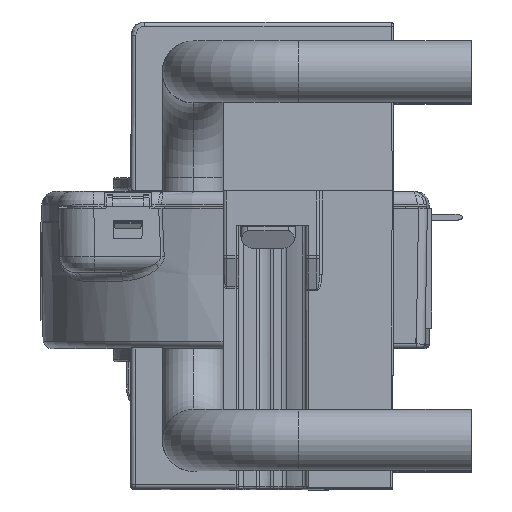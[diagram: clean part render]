
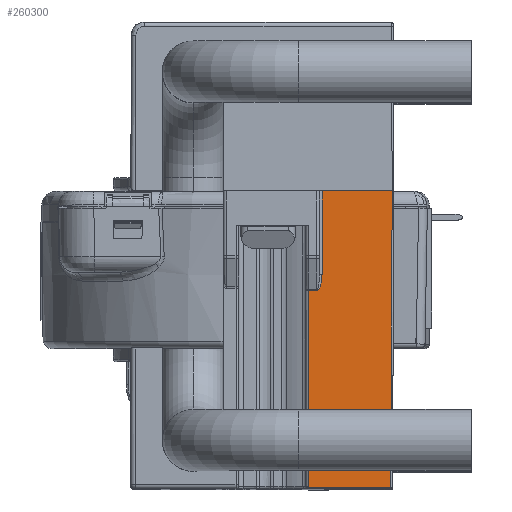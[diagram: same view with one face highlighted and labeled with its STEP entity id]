
A CAD part, top view. The second image highlights one B-rep face of the part: STEP entity #260300.
In plain terms, the highlighted planar face has unit normal (0, -0.005, 1).
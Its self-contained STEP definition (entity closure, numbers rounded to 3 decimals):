
#229080=CARTESIAN_POINT('',(51.191,2.649,
63.125));
#229090=VERTEX_POINT('',#229080);
#235090=CARTESIAN_POINT('',(52.721,36.4,
63.302));
#235100=VERTEX_POINT('',#235090);
#235130=CARTESIAN_POINT('',(52.721,16.502,
63.197));
#235140=DIRECTION('',(0.,-1.,
-0.005));
#235150=VECTOR('',#235140,1.);
#235160=LINE('',#235130,#235150);
#235170=CARTESIAN_POINT('',(52.721,26.844,
63.252));
#235180=VERTEX_POINT('',#235170);
#235190=EDGE_CURVE('',#235100,#235180,#235160,.T.);
#243670=CARTESIAN_POINT('',(60.837,2.649,
63.125));
#243680=DIRECTION('',(1.,0.,0.));
#243690=VECTOR('',#243680,1.);
#243700=LINE('',#243670,#243690);
#243710=CARTESIAN_POINT('',(60.545,2.649,
63.125));
#243720=VERTEX_POINT('',#243710);
#243730=EDGE_CURVE('',#229090,#243720,#243700,.T.);
#259180=CARTESIAN_POINT('',(60.837,36.4,
63.302));
#259190=DIRECTION('',(0.,-0.005,
1.));
#259200=DIRECTION('',(1.,0.,0.));
#259210=AXIS2_PLACEMENT_3D('',#259180,#259190,#259200);
#259220=PLANE('',#259210);
#259230=CARTESIAN_POINT('',(51.191,16.498,
63.197));
#259240=DIRECTION('',(0.,-1.,
-0.005));
#259250=VECTOR('',#259240,1.);
#259260=LINE('',#259230,#259250);
#259270=CARTESIAN_POINT('',(51.191,25.064,
63.242));
#259280=VERTEX_POINT('',#259270);
#259290=EDGE_CURVE('',#259280,#229090,#259260,.T.);
#259300=ORIENTED_EDGE('',*,*,#259290,.T.);
#259310=CARTESIAN_POINT('',(60.837,25.064,
63.242));
#259320=DIRECTION('',(-1.,0.,0.));
#259330=VECTOR('',#259320,1.);
#259340=LINE('',#259310,#259330);
#259350=CARTESIAN_POINT('',(52.121,25.064,
63.242));
#259360=VERTEX_POINT('',#259350);
#259370=EDGE_CURVE('',#259360,#259280,#259340,.T.);
#259380=ORIENTED_EDGE('',*,*,#259370,.T.);
#259390=CARTESIAN_POINT('',(52.121,25.064,
63.242));
#259400=CARTESIAN_POINT('',(52.126,25.064,
63.242));
#259410=CARTESIAN_POINT('',(52.13,25.065,
63.242));
#259420=CARTESIAN_POINT('',(52.138,25.065,
63.242));
#259430=CARTESIAN_POINT('',(52.14,25.065,
63.242));
#259440=CARTESIAN_POINT('',(52.152,25.067,
63.242));
#259450=CARTESIAN_POINT('',(52.162,25.068,
63.242));
#259460=CARTESIAN_POINT('',(52.18,25.073,
63.242));
#259470=CARTESIAN_POINT('',(52.189,25.075,
63.242));
#259480=CARTESIAN_POINT('',(52.206,25.082,
63.242));
#259490=CARTESIAN_POINT('',(52.215,25.086,
63.242));
#259500=CARTESIAN_POINT('',(52.231,25.094,
63.242));
#259510=CARTESIAN_POINT('',(52.239,25.099,
63.242));
#259520=CARTESIAN_POINT('',(52.254,25.108,
63.242));
#259530=CARTESIAN_POINT('',(52.261,25.113,
63.242));
#259540=CARTESIAN_POINT('',(52.276,25.124,
63.243));
#259550=CARTESIAN_POINT('',(52.282,25.13,
63.243));
#259560=CARTESIAN_POINT('',(52.296,25.141,
63.243));
#259570=CARTESIAN_POINT('',(52.303,25.147,
63.243));
#259580=CARTESIAN_POINT('',(52.319,25.164,
63.243));
#259590=CARTESIAN_POINT('',(52.329,25.174,
63.243));
#259600=CARTESIAN_POINT('',(52.348,25.196,
63.243));
#259610=CARTESIAN_POINT('',(52.357,25.207,
63.243));
#259620=CARTESIAN_POINT('',(52.374,25.229,
63.243));
#259630=CARTESIAN_POINT('',(52.382,25.241,
63.243));
#259640=CARTESIAN_POINT('',(52.398,25.265,
63.243));
#259650=CARTESIAN_POINT('',(52.406,25.277,
63.243));
#259660=CARTESIAN_POINT('',(52.423,25.306,
63.244));
#259670=CARTESIAN_POINT('',(52.433,25.323,
63.244));
#259680=CARTESIAN_POINT('',(52.442,25.34,
63.244));
#259690=CARTESIAN_POINT('',(52.453,25.361,
63.244));
#259700=CARTESIAN_POINT('',(52.464,25.383,
63.244));
#259710=CARTESIAN_POINT('',(52.484,25.425,
63.244));
#259720=CARTESIAN_POINT('',(52.493,25.447,
63.244));
#259730=CARTESIAN_POINT('',(52.511,25.491,
63.244));
#259740=CARTESIAN_POINT('',(52.52,25.513,
63.245));
#259750=CARTESIAN_POINT('',(52.536,25.557,
63.245));
#259760=CARTESIAN_POINT('',(52.544,25.579,
63.245));
#259770=CARTESIAN_POINT('',(52.558,25.624,
63.245));
#259780=CARTESIAN_POINT('',(52.565,25.647,
63.245));
#259790=CARTESIAN_POINT('',(52.579,25.692,
63.246));
#259800=CARTESIAN_POINT('',(52.585,25.715,
63.246));
#259810=CARTESIAN_POINT('',(52.597,25.761,
63.246));
#259820=CARTESIAN_POINT('',(52.603,25.783,
63.246));
#259830=CARTESIAN_POINT('',(52.614,25.829,
63.246));
#259840=CARTESIAN_POINT('',(52.62,25.853,
63.246));
#259850=CARTESIAN_POINT('',(52.634,25.916,
63.247));
#259860=CARTESIAN_POINT('',(52.642,25.957,
63.247));
#259870=CARTESIAN_POINT('',(52.656,26.038,
63.247));
#259880=CARTESIAN_POINT('',(52.663,26.079,
63.248));
#259890=CARTESIAN_POINT('',(52.676,26.16,
63.248));
#259900=CARTESIAN_POINT('',(52.681,26.201,
63.248));
#259910=CARTESIAN_POINT('',(52.691,26.283,
63.249));
#259920=CARTESIAN_POINT('',(52.695,26.324,
63.249));
#259930=CARTESIAN_POINT('',(52.703,26.407,
63.249));
#259940=CARTESIAN_POINT('',(52.706,26.448,
63.249));
#259950=CARTESIAN_POINT('',(52.712,26.53,
63.25));
#259960=CARTESIAN_POINT('',(52.714,26.572,
63.25));
#259970=CARTESIAN_POINT('',(52.718,26.654,
63.251));
#259980=CARTESIAN_POINT('',(52.719,26.696,
63.251));
#259990=CARTESIAN_POINT('',(52.721,26.749,
63.251));
#260000=CARTESIAN_POINT('',(52.721,26.761,
63.251));
#260010=CARTESIAN_POINT('',(52.721,26.796,
63.251));
#260020=CARTESIAN_POINT('',(52.721,26.82,
63.251));
#260030=CARTESIAN_POINT('',(52.721,26.844,
63.252));
#260040=B_SPLINE_CURVE_WITH_KNOTS('',3,(#259390,#259400,#259410,#259420,
#259430,#259440,#259450,#259460,#259470,#259480,#259490,#259500,#259510,
#259520,#259530,#259540,#259550,#259560,#259570,#259580,#259590,#259600,
#259610,#259620,#259630,#259640,#259650,#259660,#259670,#259680,#259690,
#259700,#259710,#259720,#259730,#259740,#259750,#259760,#259770,#259780,
#259790,#259800,#259810,#259820,#259830,#259840,#259850,#259860,#259870,
#259880,#259890,#259900,#259910,#259920,#259930,#259940,#259950,#259960,
#259970,#259980,#259990,#260000,#260010,#260020,#260030),.UNSPECIFIED.,
.F.,.F.,(4,2,2,2,2,2,2,2,2,2,2,2,2,2,3,2,2,2,2,2,2,2,2,2,2,2,2,2,2,2,2,4
),(0.,0.01,0.015,0.035,
0.056,0.078,0.1,
0.122,0.145,0.168,0.206,
0.244,0.283,0.323,0.378,
0.444,0.51,0.577,0.644,
0.711,0.779,0.846,0.914,
1.033,1.152,1.271,1.39,
1.51,1.63,1.749,1.783,
1.853),.UNSPECIFIED.);
#260050=EDGE_CURVE('',#259360,#235180,#260040,.T.);
#260060=ORIENTED_EDGE('',*,*,#260050,.F.);
#260070=ORIENTED_EDGE('',*,*,#235190,.T.);
#260080=CARTESIAN_POINT('',(60.837,36.4,
63.302));
#260090=DIRECTION('',(-1.,0.,0.));
#260100=VECTOR('',#260090,1.);
#260110=LINE('',#260080,#260100);
#260120=CARTESIAN_POINT('',(60.721,36.4,
63.302));
#260130=VERTEX_POINT('',#260120);
#260140=EDGE_CURVE('',#260130,#235100,#260110,.T.);
#260150=ORIENTED_EDGE('',*,*,#260140,.T.);
#260160=CARTESIAN_POINT('',(60.721,36.4,
63.302));
#260170=CARTESIAN_POINT('',(60.721,36.391,
63.302));
#260180=CARTESIAN_POINT('',(60.721,36.381,
63.301));
#260190=CARTESIAN_POINT('',(60.692,30.756,
63.272));
#260200=CARTESIAN_POINT('',(60.662,25.14,
63.243));
#260210=CARTESIAN_POINT('',(60.604,13.899,
63.184));
#260220=CARTESIAN_POINT('',(60.574,8.274,
63.154));
#260230=CARTESIAN_POINT('',(60.545,2.649,
63.125));
#260240=B_SPLINE_CURVE_WITH_KNOTS('',3,(#260160,#260170,#260180,#260190,
#260200,#260210,#260220,#260230),.UNSPECIFIED.,.F.,.F.,(4,2,2,4),(0.,
0.028,16.876,33.752),.UNSPECIFIED.);
#260250=EDGE_CURVE('',#260130,#243720,#260240,.T.);
#260260=ORIENTED_EDGE('',*,*,#260250,.F.);
#260270=ORIENTED_EDGE('',*,*,#243730,.T.);
#260280=EDGE_LOOP('',(#260270,#260260,#260150,#260070,#260060,#259380,
#259300));
#260290=FACE_OUTER_BOUND('',#260280,.T.);
#260300=ADVANCED_FACE('',(#260290),#259220,.T.);
